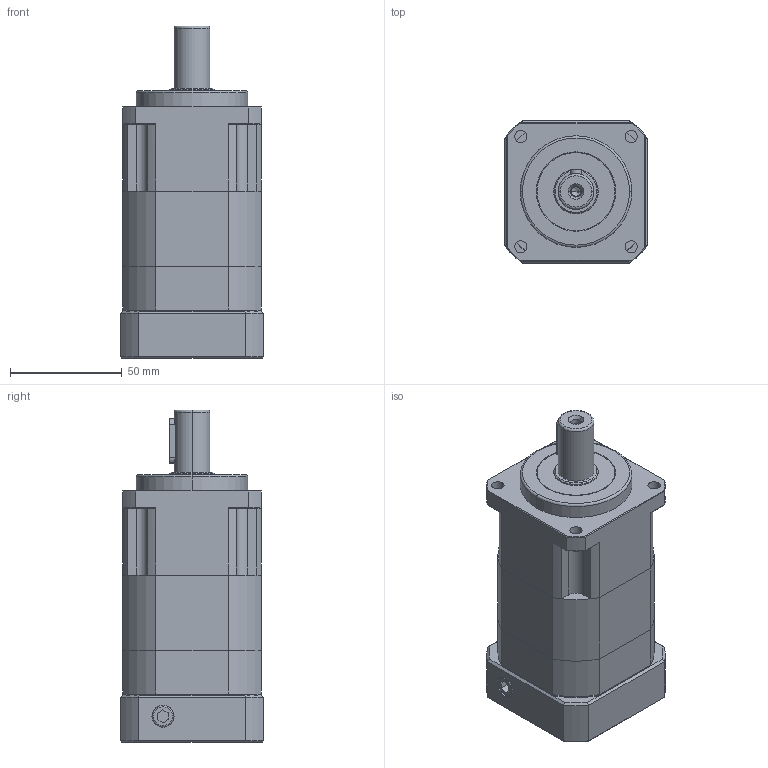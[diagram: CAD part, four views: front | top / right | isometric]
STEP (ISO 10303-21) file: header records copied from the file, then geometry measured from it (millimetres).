
FILE_DESCRIPTION (( 'STEP AP203' ), '1' );
FILE_NAME ('SB62A-2-30M4.STEP', '2011-07-11T09:00:07', ( '1' ), ( '' ), 'SwSTEP 2.0', 'SolidWorks 2011', '' );
FILE_SCHEMA (( 'CONFIG_CONTROL_DESIGN' ));
Length unit declared in the file: millimetre
Products named in the file (1): SB62A-2-30M4
Bounding box: 64 x 64 x 148.8 mm (x, y, z)
Volume: 311640 mm3; surface area: 87351.5 mm2
Topology: 17 solids, 17 shells, 607 faces, 1446 edges, 896 vertices
Faces by surface type: plane 272, cylinder 190, cone 116, torus 20, bspline 9
Entity records: 18555 total; most frequent: CARTESIAN_POINT 4292, DIRECTION 3046, ORIENTED_EDGE 2844, EDGE_CURVE 1422, AXIS2_PLACEMENT_3D 1148, VERTEX_POINT 896, VECTOR 750, LINE 750
